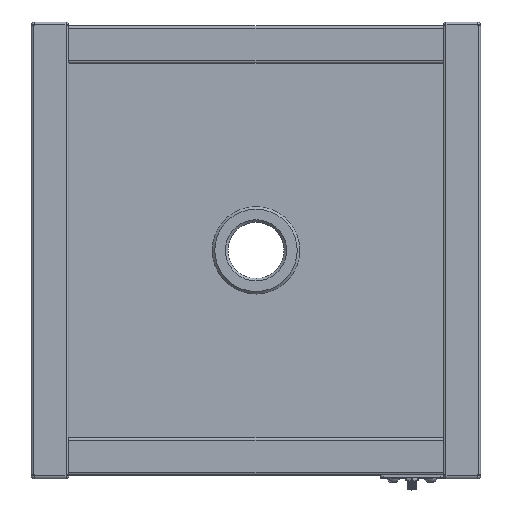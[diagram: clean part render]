
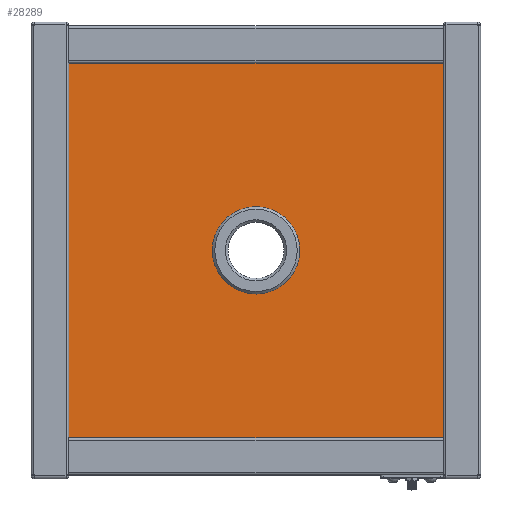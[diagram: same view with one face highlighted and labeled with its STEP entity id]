
A CAD part, top view. The second image highlights one B-rep face of the part: STEP entity #28289.
In plain terms, the highlighted planar face has unit normal (0, 0, 1).
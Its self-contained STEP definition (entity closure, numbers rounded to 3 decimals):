
#247 = CARTESIAN_POINT ( 'NONE',  ( 0., 0., 0. ) ) ;
#348 = ORIENTED_EDGE ( 'NONE', *, *, #13329, .T. ) ;
#358 = ORIENTED_EDGE ( 'NONE', *, *, #6362, .T. ) ;
#1370 = VERTEX_POINT ( 'NONE', #5851 ) ;
#1456 = FACE_BOUND ( 'NONE', #5696, .T. ) ;
#1659 = DIRECTION ( 'NONE',  ( -1., 0., 0. ) ) ;
#1661 = CARTESIAN_POINT ( 'NONE',  ( -150., -150., 0. ) ) ;
#3589 = LINE ( 'NONE', #1661, #19507 ) ;
#3743 = EDGE_LOOP ( 'NONE', ( #358, #348, #23739, #16557 ) ) ;
#3838 = DIRECTION ( 'NONE',  ( 0., 0., 1. ) ) ;
#4348 = CARTESIAN_POINT ( 'NONE',  ( -150., -150., 0. ) ) ;
#4543 = AXIS2_PLACEMENT_3D ( 'NONE', #247, #16444, #22988 ) ;
#5696 = EDGE_LOOP ( 'NONE', ( #11345 ) ) ;
#5851 = CARTESIAN_POINT ( 'NONE',  ( 0., -35., 0. ) ) ;
#6335 = DIRECTION ( 'NONE',  ( 0., -1., 0. ) ) ;
#6362 = EDGE_CURVE ( 'NONE', #8390, #12785, #3589, .T. ) ;
#6508 = VECTOR ( 'NONE', #24175, 1000. ) ;
#7186 = PLANE ( 'NONE',  #4543 ) ;
#8231 = LINE ( 'NONE', #13700, #15297 ) ;
#8390 = VERTEX_POINT ( 'NONE', #9960 ) ;
#8392 = CARTESIAN_POINT ( 'NONE',  ( 0., 0., 0. ) ) ;
#9960 = CARTESIAN_POINT ( 'NONE',  ( -150., 150., 0. ) ) ;
#10926 = CARTESIAN_POINT ( 'NONE',  ( 150., -150., 0. ) ) ;
#11345 = ORIENTED_EDGE ( 'NONE', *, *, #16780, .F. ) ;
#12785 = VERTEX_POINT ( 'NONE', #4348 ) ;
#13200 = FACE_OUTER_BOUND ( 'NONE', #3743, .T. ) ;
#13329 = EDGE_CURVE ( 'NONE', #12785, #19092, #22066, .T. ) ;
#13700 = CARTESIAN_POINT ( 'NONE',  ( 150., -150., 0. ) ) ;
#14837 = EDGE_CURVE ( 'NONE', #19309, #8390, #14902, .T. ) ;
#14902 = LINE ( 'NONE', #21426, #16639 ) ;
#15297 = VECTOR ( 'NONE', #27324, 1000. ) ;
#16193 = CIRCLE ( 'NONE', #26641, 35. ) ;
#16444 = DIRECTION ( 'NONE',  ( 0., 0., 1. ) ) ;
#16557 = ORIENTED_EDGE ( 'NONE', *, *, #14837, .T. ) ;
#16639 = VECTOR ( 'NONE', #1659, 1000. ) ;
#16780 = EDGE_CURVE ( 'NONE', #1370, #1370, #16193, .T. ) ;
#19092 = VERTEX_POINT ( 'NONE', #25451 ) ;
#19309 = VERTEX_POINT ( 'NONE', #26712 ) ;
#19507 = VECTOR ( 'NONE', #6335, 1000. ) ;
#21426 = CARTESIAN_POINT ( 'NONE',  ( 150., 150., 0. ) ) ;
#22066 = LINE ( 'NONE', #10926, #6508 ) ;
#22988 = DIRECTION ( 'NONE',  ( 0., -1., 0. ) ) ;
#23739 = ORIENTED_EDGE ( 'NONE', *, *, #27032, .T. ) ;
#24175 = DIRECTION ( 'NONE',  ( 1., 0., 0. ) ) ;
#24206 = DIRECTION ( 'NONE',  ( 0., -1., 0. ) ) ;
#25451 = CARTESIAN_POINT ( 'NONE',  ( 150., -150., 0. ) ) ;
#26641 = AXIS2_PLACEMENT_3D ( 'NONE', #8392, #3838, #24206 ) ;
#26712 = CARTESIAN_POINT ( 'NONE',  ( 150., 150., 0. ) ) ;
#27032 = EDGE_CURVE ( 'NONE', #19092, #19309, #8231, .T. ) ;
#27324 = DIRECTION ( 'NONE',  ( 0., 1., 0. ) ) ;
#28289 = ADVANCED_FACE ( 'NONE', ( #1456, #13200 ), #7186, .T. ) ;
